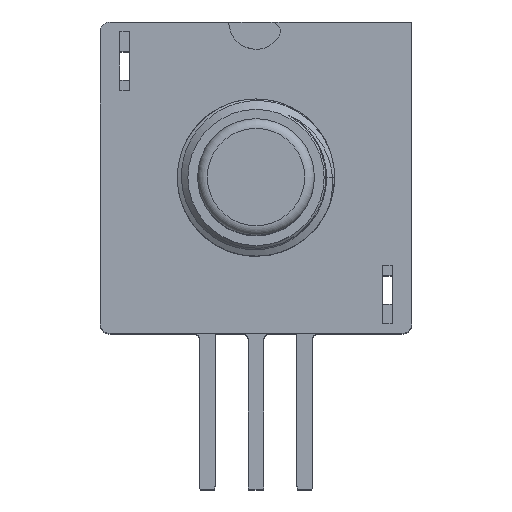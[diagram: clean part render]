
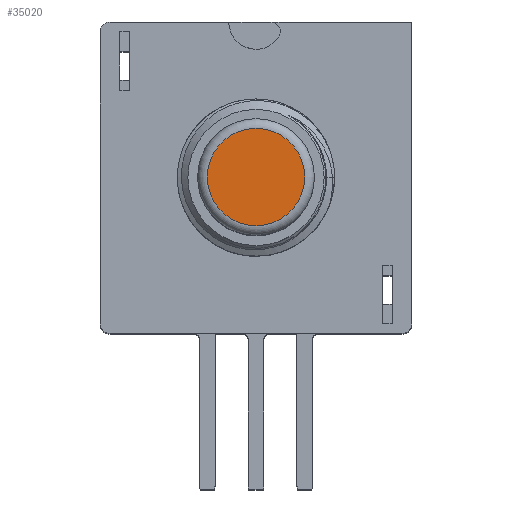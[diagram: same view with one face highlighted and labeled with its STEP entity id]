
A CAD part, top view. The second image highlights one B-rep face of the part: STEP entity #35020.
In plain terms, the highlighted planar face has unit normal (0, 0, 1).
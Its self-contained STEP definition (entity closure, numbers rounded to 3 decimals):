
#34955 = TOROIDAL_SURFACE('',#34956,2.5,0.5);
#34956 = AXIS2_PLACEMENT_3D('',#34957,#34958,#34959);
#34957 = CARTESIAN_POINT('',(0.,0.,19.5));
#34958 = DIRECTION('',(0.,0.,1.));
#34959 = DIRECTION('',(1.,0.,0.));
#34971 = VERTEX_POINT('',#34972);
#34972 = CARTESIAN_POINT('',(2.5,0.,20.));
#34994 = EDGE_CURVE('',#34971,#34971,#34995,.T.);
#34995 = SURFACE_CURVE('',#34996,(#35001,#35008),.PCURVE_S1.);
#34996 = CIRCLE('',#34997,2.5);
#34997 = AXIS2_PLACEMENT_3D('',#34998,#34999,#35000);
#34998 = CARTESIAN_POINT('',(0.,0.,20.));
#34999 = DIRECTION('',(0.,0.,1.));
#35000 = DIRECTION('',(1.,0.,0.));
#35001 = PCURVE('',#34955,#35002);
#35002 = DEFINITIONAL_REPRESENTATION('',(#35003),#35007);
#35003 = LINE('',#35004,#35005);
#35004 = CARTESIAN_POINT('',(0.,1.571));
#35005 = VECTOR('',#35006,1.);
#35006 = DIRECTION('',(1.,0.));
#35007 = ( GEOMETRIC_REPRESENTATION_CONTEXT(2) 
PARAMETRIC_REPRESENTATION_CONTEXT() REPRESENTATION_CONTEXT('2D SPACE',''
  ) );
#35008 = PCURVE('',#35009,#35014);
#35009 = PLANE('',#35010);
#35010 = AXIS2_PLACEMENT_3D('',#35011,#35012,#35013);
#35011 = CARTESIAN_POINT('',(0.,0.,20.));
#35012 = DIRECTION('',(0.,0.,1.));
#35013 = DIRECTION('',(1.,0.,0.));
#35014 = DEFINITIONAL_REPRESENTATION('',(#35015),#35019);
#35015 = CIRCLE('',#35016,2.5);
#35016 = AXIS2_PLACEMENT_2D('',#35017,#35018);
#35017 = CARTESIAN_POINT('',(0.,0.));
#35018 = DIRECTION('',(1.,0.));
#35019 = ( GEOMETRIC_REPRESENTATION_CONTEXT(2) 
PARAMETRIC_REPRESENTATION_CONTEXT() REPRESENTATION_CONTEXT('2D SPACE',''
  ) );
#35020 = ADVANCED_FACE('',(#35021),#35009,.T.);
#35021 = FACE_BOUND('',#35022,.T.);
#35022 = EDGE_LOOP('',(#35023));
#35023 = ORIENTED_EDGE('',*,*,#34994,.T.);
